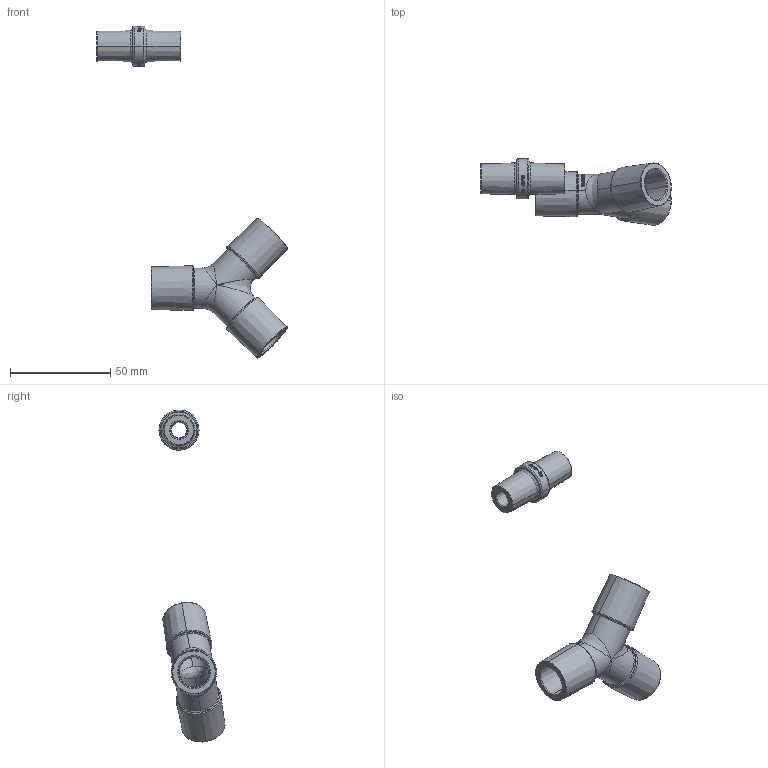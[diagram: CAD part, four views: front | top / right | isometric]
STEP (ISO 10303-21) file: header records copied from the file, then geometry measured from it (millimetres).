
FILE_DESCRIPTION(/* description */ (''),/* implementation_level */ '2;1');
FILE_NAME(/* name */ 'ISO 5356 M15 F8.5 - M15 F8,5_GgCV19.stp',/* time_stamp */ '2020-03-27T17:13:12+01:00',/* author */ (''),/* organization */ (''),/* preprocessor_version */ 'ST-DEVELOPER v16.7',/* originating_system */ 'SIEMENS PLM Software NX 12.0',/* authorisation */ '');
FILE_SCHEMA (('AUTOMOTIVE_DESIGN { 1 0 10303 214 3 1 1 1 }'));
Length unit declared in the file: millimetre
Products named in the file (1): ISO5356 - copia
Bounding box: 95.02 x 32.93 x 165.57 mm (x, y, z)
Volume: 24800.7 mm3; surface area: 15824.7 mm2
Topology: 2 solids, 2 shells, 471 faces, 1190 edges, 768 vertices
Faces by surface type: plane 270, extrusion 93, torus 50, cylinder 28, cone 24, bspline 6
Entity records: 19557 total; most frequent: CARTESIAN_POINT 9216, ORIENTED_EDGE 2348, DIRECTION 1670, EDGE_CURVE 1174, VERTEX_POINT 766, B_SPLINE_CURVE_WITH_KNOTS 663, AXIS2_PLACEMENT_3D 600, EDGE_LOOP 536
